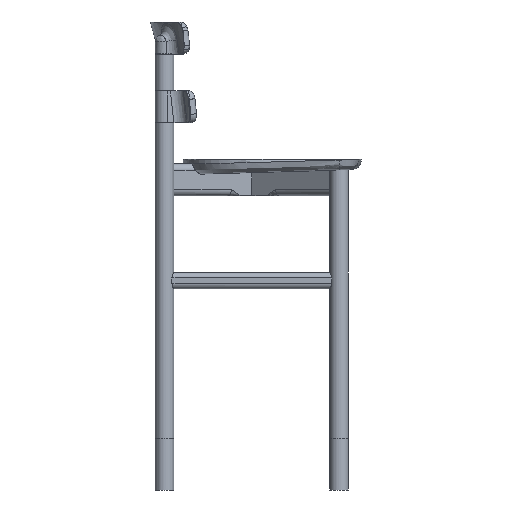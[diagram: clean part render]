
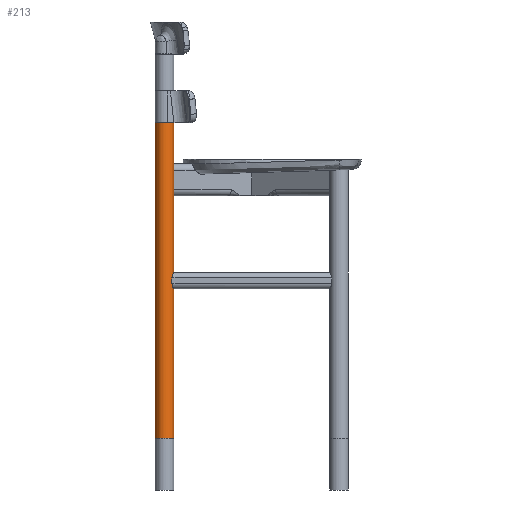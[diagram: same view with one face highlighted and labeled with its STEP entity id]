
A CAD part, left-side view. The second image highlights one B-rep face of the part: STEP entity #213.
In plain terms, the highlighted cylindrical face has radius 21.5 mm (diameter 43 mm), a partial arc.
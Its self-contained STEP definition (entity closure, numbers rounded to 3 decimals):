
#213=ADVANCED_FACE('',(#499),#4272,.T.);
#499=FACE_OUTER_BOUND('',#785,.T.);
#785=EDGE_LOOP('',(#1117,#1118,#1119,#1120));
#1117=ORIENTED_EDGE('',*,*,#2371,.F.);
#1118=ORIENTED_EDGE('',*,*,#2369,.F.);
#1119=ORIENTED_EDGE('',*,*,#2372,.T.);
#1120=ORIENTED_EDGE('',*,*,#2370,.T.);
#2369=EDGE_CURVE('',#3843,#3842,#3435,.T.);
#2370=EDGE_CURVE('',#3841,#3844,#3436,.T.);
#2371=EDGE_CURVE('',#3842,#3844,#2986,.T.);
#2372=EDGE_CURVE('',#3843,#3841,#2987,.T.);
#2986=B_SPLINE_CURVE_WITH_KNOTS('',1,(#5442,#5443),.UNSPECIFIED.,.F.,.F.,
(2,2),(0.,735.),.UNSPECIFIED.);
#2987=B_SPLINE_CURVE_WITH_KNOTS('',1,(#5444,#5445),.UNSPECIFIED.,.F.,.F.,
(2,2),(0.,735.),.UNSPECIFIED.);
#3435=TRIMMED_CURVE($,#3634,(#5437),(#5438),.T.,.CARTESIAN.);
#3436=TRIMMED_CURVE($,#3635,(#5440),(#5441),.T.,.CARTESIAN.);
#3634=CIRCLE('',#4475,21.5);
#3635=CIRCLE('',#4476,21.5);
#3841=VERTEX_POINT('',#5426);
#3842=VERTEX_POINT('',#5427);
#3843=VERTEX_POINT('',#5428);
#3844=VERTEX_POINT('',#5429);
#4272=CYLINDRICAL_SURFACE('',#4470,21.5);
#4470=AXIS2_PLACEMENT_3D('',#5421,#4825,$);
#4475=AXIS2_PLACEMENT_3D($,#5436,#4831,#4832);
#4476=AXIS2_PLACEMENT_3D($,#5439,#4833,#4834);
#4825=DIRECTION('',(0.,0.,-1.));
#4831=DIRECTION('',(0.,0.,1.));
#4832=DIRECTION('',(0.,1.,0.));
#4833=DIRECTION('',(0.,0.,1.));
#4834=DIRECTION('',(0.,1.,0.));
#5421=CARTESIAN_POINT('',(-169.209,478.797,487.5));
#5426=CARTESIAN_POINT('',(-169.209,500.297,120.));
#5427=CARTESIAN_POINT('',(-169.209,457.297,855.));
#5428=CARTESIAN_POINT('',(-169.209,500.297,855.));
#5429=CARTESIAN_POINT('',(-169.209,457.297,120.));
#5436=CARTESIAN_POINT('',(-169.209,478.797,855.));
#5437=CARTESIAN_POINT('',(-169.209,500.297,855.));
#5438=CARTESIAN_POINT('',(-169.209,457.297,855.));
#5439=CARTESIAN_POINT('',(-169.209,478.797,120.));
#5440=CARTESIAN_POINT('',(-169.209,500.297,120.));
#5441=CARTESIAN_POINT('',(-169.209,457.297,120.));
#5442=CARTESIAN_POINT('',(-169.209,457.297,855.));
#5443=CARTESIAN_POINT('',(-169.209,457.297,120.));
#5444=CARTESIAN_POINT('',(-169.209,500.297,855.));
#5445=CARTESIAN_POINT('',(-169.209,500.297,120.));
